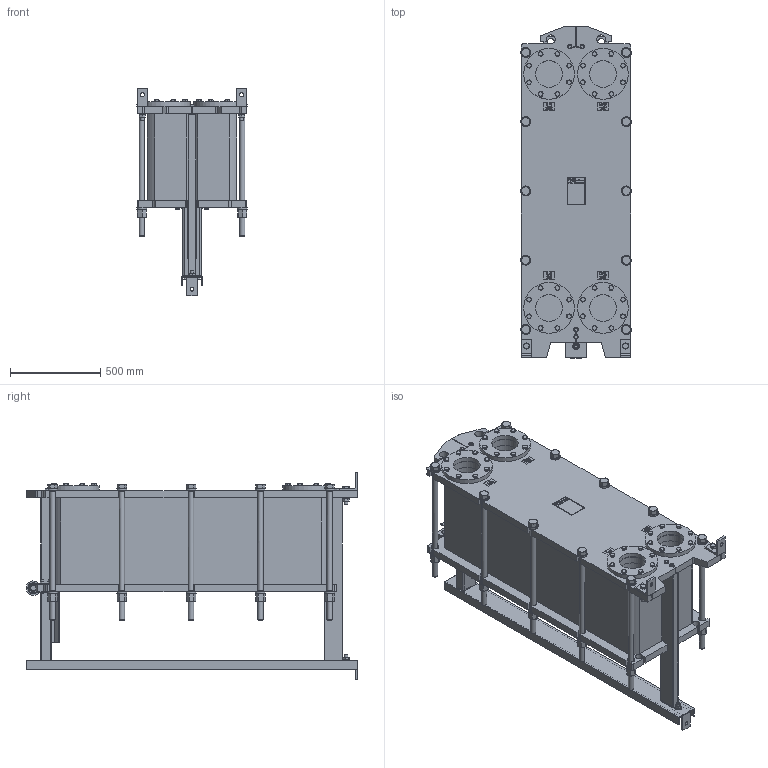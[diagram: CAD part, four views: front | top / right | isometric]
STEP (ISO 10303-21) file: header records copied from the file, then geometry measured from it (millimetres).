
FILE_DESCRIPTION (( 'STEP AP214' ), '1' );
FILE_NAME ('ÏÒ SX150 Óçêèé ðåä 9 íîâûé ðîëèê2+Alfa ñèãìà 5...100.STEP', '2021-04-18T16:01:31', ( '' ), ( '' ), 'SwSTEP 2.0', 'SolidWorks 2018', '' );
FILE_SCHEMA (( 'AUTOMOTIVE_DESIGN' ));
Length unit declared in the file: millimetre
Products named in the file (3): ÏÒ SX150 Óçêèé ðåä 9 íîâûé ðîëèê2+Alfa ñèãìà2 5...100; ÏÒ SX150 Óçêèé ðåä 9 íîâûé ðîëèê2+Alfa ñèãìà 5...100; ÏÒ SX150 Óçêèé ðåä 9 íîâûé ðîëèê2+Alfa ñèãìà1
Assembly tree (2 placements, depth 2):
  ÏÒ SX150 Óçêèé ðåä 9 íîâûé ðîëèê2+Alfa ñèãìà 5...100
    ÏÒ SX150 Óçêèé ðåä 9 íîâûé ðîëèê2+Alfa ñèãìà2 5...100
    ÏÒ SX150 Óçêèé ðåä 9 íîâûé ðîëèê2+Alfa ñèãìà1
Bounding box: 610.97 x 1834 x 1145 mm (x, y, z)
Volume: 425404254.6 mm3; surface area: 11973345.8 mm2
Topology: 54 solids, 65 shells, 3227 faces, 7601 edges, 4808 vertices
Faces by surface type: plane 1543, cone 863, cylinder 497, bspline 275, torus 49
Full cylindrical faces by diameter (mm): 12 x24, 13 x16, 14 x8, 16 x32, 17 x32, 18 x32, 20 x9, 22 x9, 23 x5, 24 x16, 30 x20, 32 x20, 37 x5, 41 x20, 55 x20, 59.5 x1, 60.5 x1, 80 x1, 148 x12, 148.01 x4, 216 x4, 280 x4
Entity records: 132786 total; most frequent: CARTESIAN_POINT 29666, ORIENTED_EDGE 13728, DIRECTION 12884, EDGE_CURVE 6864, AXIS2_PLACEMENT_3D 4851, VERTEX_POINT 4660, EDGE_LOOP 4286, FACE_OUTER_BOUND 3571
